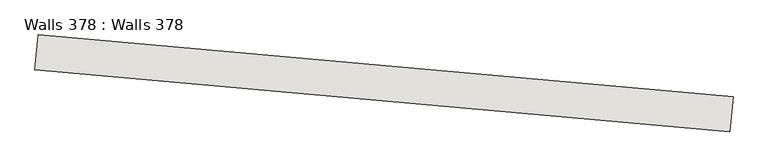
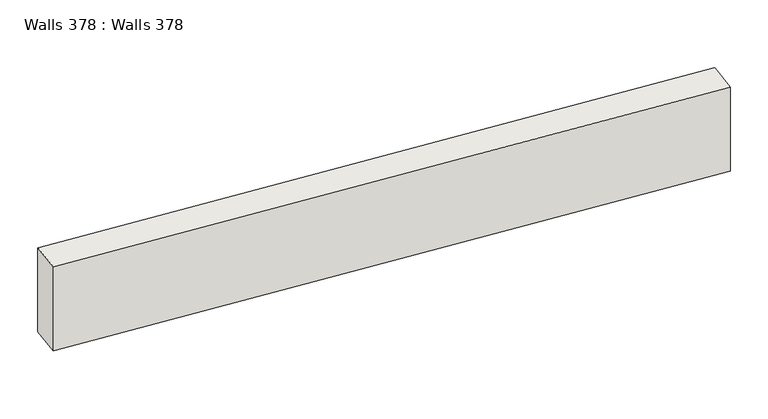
"""IFC4 building model written with IfcOpenShell, lengths in millimetres: wall geometry, Walls 378 : Walls 378."""

from ifc_helpers import new_model, si_unit, frame, origin, place, context, project, spatial, polyline, outline, extrude, source, transform, mapped, element, save


def walls_378_walls_378_d43f7861(model_context):
    return source(origin(), model_context, "Body", "SweptSolid", [
        extrude(outline(polyline([(-642759.8726195, -421416.2304051), (-642795.3675496, -421814.65243), (-650763.808048, -421104.7538288), (-650728.3131179, -420706.3318039), (-642759.8726195, -421416.2304051)])), frame((0.0, 0.0, 635860.0), z_axis=(0.0, 0.0, 1.0), x_axis=(1.0, 0.0, 0.0)), (0.0, 0.0, 1.0), 1100.0),
    ])


if __name__ == "__main__":
    model = new_model("IFC4")
    model_context = context("Model", 3, world=origin())
    ifc_project = project(units=[si_unit("LENGTHUNIT", "METRE", prefix="MILLI")], contexts=[model_context])
    site = spatial("IfcSite", under=ifc_project)
    building = spatial("IfcBuilding", under=site)
    placement = place(None, origin())
    walls_378_walls_378_shape = walls_378_walls_378_d43f7861(model_context)
    element("IfcWall", 1, ObjectType="Walls 378 : Walls 378", at=placement, inside=building, context=model_context, shape_type="MappedRepresentation", body=[
        mapped(walls_378_walls_378_shape, transform((0.0, 0.0, 0.0), x_axis=(1.0, 0.0, 0.0), y_axis=(0.0, 1.0, 0.0), z_axis=(0.0, 0.0, 1.0))),
    ])
    save(model, "model.ifc")
